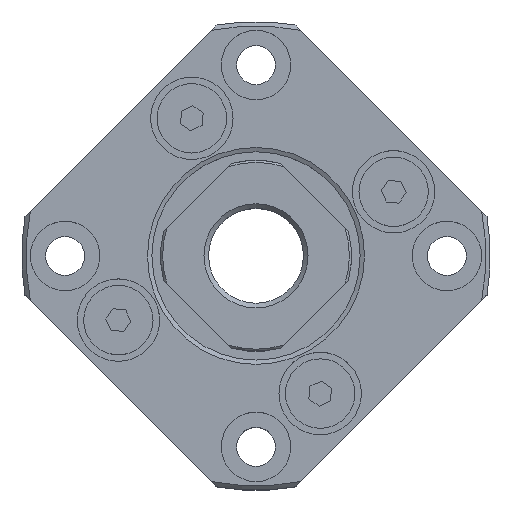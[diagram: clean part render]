
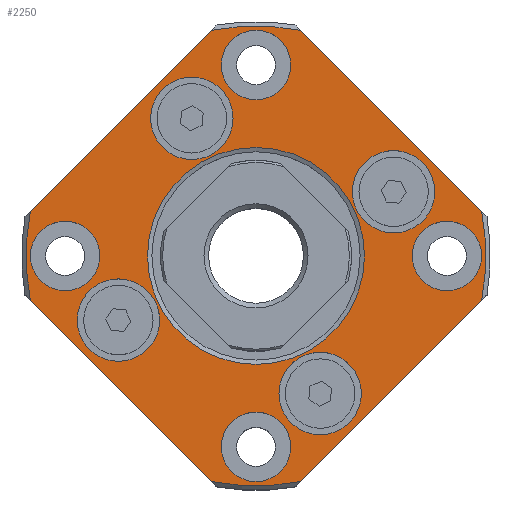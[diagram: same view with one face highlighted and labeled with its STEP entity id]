
A CAD part, top view. The second image highlights one B-rep face of the part: STEP entity #2250.
In plain terms, the highlighted planar face has unit normal (0, 0, 1) as drawn and (-1, 0, 0) by its records, which use the part's own axes.
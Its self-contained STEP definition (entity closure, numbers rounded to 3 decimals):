
#170=LINE('',#3469,#324);
#174=LINE('',#3488,#328);
#178=LINE('',#3507,#332);
#182=LINE('',#3526,#336);
#324=VECTOR('',#2750,1000.);
#328=VECTOR('',#2756,1000.);
#332=VECTOR('',#2762,1000.);
#336=VECTOR('',#2768,1000.);
#506=ORIENTED_EDGE('',*,*,#1110,.T.);
#507=ORIENTED_EDGE('',*,*,#1111,.T.);
#508=ORIENTED_EDGE('',*,*,#1112,.T.);
#509=ORIENTED_EDGE('',*,*,#1113,.T.);
#510=ORIENTED_EDGE('',*,*,#1114,.T.);
#511=ORIENTED_EDGE('',*,*,#1115,.T.);
#512=ORIENTED_EDGE('',*,*,#1116,.T.);
#513=ORIENTED_EDGE('',*,*,#1117,.T.);
#514=ORIENTED_EDGE('',*,*,#1118,.T.);
#515=ORIENTED_EDGE('',*,*,#1107,.F.);
#516=ORIENTED_EDGE('',*,*,#1119,.F.);
#517=ORIENTED_EDGE('',*,*,#1101,.F.);
#518=ORIENTED_EDGE('',*,*,#1120,.F.);
#519=ORIENTED_EDGE('',*,*,#1095,.F.);
#520=ORIENTED_EDGE('',*,*,#1121,.F.);
#521=ORIENTED_EDGE('',*,*,#1089,.F.);
#522=ORIENTED_EDGE('',*,*,#1122,.F.);
#1089=EDGE_CURVE('',#1391,#1392,#170,.T.);
#1095=EDGE_CURVE('',#1397,#1398,#174,.T.);
#1101=EDGE_CURVE('',#1403,#1404,#178,.T.);
#1107=EDGE_CURVE('',#1409,#1410,#182,.T.);
#1110=EDGE_CURVE('',#1412,#1412,#1588,.T.);
#1111=EDGE_CURVE('',#1413,#1413,#1589,.T.);
#1112=EDGE_CURVE('',#1414,#1414,#1590,.T.);
#1113=EDGE_CURVE('',#1415,#1415,#1591,.T.);
#1114=EDGE_CURVE('',#1416,#1416,#1592,.T.);
#1115=EDGE_CURVE('',#1417,#1417,#1593,.T.);
#1116=EDGE_CURVE('',#1418,#1418,#1594,.T.);
#1117=EDGE_CURVE('',#1419,#1419,#1595,.T.);
#1118=EDGE_CURVE('',#1420,#1420,#1596,.T.);
#1119=EDGE_CURVE('',#1404,#1409,#1597,.T.);
#1120=EDGE_CURVE('',#1398,#1403,#1598,.T.);
#1121=EDGE_CURVE('',#1392,#1397,#1599,.T.);
#1122=EDGE_CURVE('',#1410,#1391,#1600,.T.);
#1391=VERTEX_POINT('',#3468);
#1392=VERTEX_POINT('',#3470);
#1397=VERTEX_POINT('',#3487);
#1398=VERTEX_POINT('',#3489);
#1403=VERTEX_POINT('',#3506);
#1404=VERTEX_POINT('',#3508);
#1409=VERTEX_POINT('',#3525);
#1410=VERTEX_POINT('',#3527);
#1412=VERTEX_POINT('',#3536);
#1413=VERTEX_POINT('',#3538);
#1414=VERTEX_POINT('',#3540);
#1415=VERTEX_POINT('',#3542);
#1416=VERTEX_POINT('',#3544);
#1417=VERTEX_POINT('',#3546);
#1418=VERTEX_POINT('',#3548);
#1419=VERTEX_POINT('',#3550);
#1420=VERTEX_POINT('',#3552);
#1588=CIRCLE('',#2445,4.75);
#1589=CIRCLE('',#2446,4.75);
#1590=CIRCLE('',#2447,4.75);
#1591=CIRCLE('',#2448,4.75);
#1592=CIRCLE('',#2449,4.);
#1593=CIRCLE('',#2450,4.);
#1594=CIRCLE('',#2451,4.);
#1595=CIRCLE('',#2452,4.);
#1596=CIRCLE('',#2453,12.5);
#1597=CIRCLE('',#2454,26.5);
#1598=CIRCLE('',#2455,26.5);
#1599=CIRCLE('',#2456,26.5);
#1600=CIRCLE('',#2457,26.5);
#1710=EDGE_LOOP('',(#506));
#1711=EDGE_LOOP('',(#507));
#1712=EDGE_LOOP('',(#508));
#1713=EDGE_LOOP('',(#509));
#1714=EDGE_LOOP('',(#510));
#1715=EDGE_LOOP('',(#511));
#1716=EDGE_LOOP('',(#512));
#1717=EDGE_LOOP('',(#513));
#1718=EDGE_LOOP('',(#514));
#1719=EDGE_LOOP('',(#515,#516,#517,#518,#519,#520,#521,#522));
#1942=FACE_BOUND('',#1710,.T.);
#1943=FACE_BOUND('',#1711,.T.);
#1944=FACE_BOUND('',#1712,.T.);
#1945=FACE_BOUND('',#1713,.T.);
#1946=FACE_BOUND('',#1714,.T.);
#1947=FACE_BOUND('',#1715,.T.);
#1948=FACE_BOUND('',#1716,.T.);
#1949=FACE_BOUND('',#1717,.T.);
#1950=FACE_BOUND('',#1718,.T.);
#1951=FACE_BOUND('',#1719,.T.);
#2169=PLANE('',#2444);
#2250=ADVANCED_FACE('',(#1942,#1943,#1944,#1945,#1946,#1947,#1948,#1949,
#1950,#1951),#2169,.F.);
#2444=AXIS2_PLACEMENT_3D('',#3534,#2770,#2771);
#2445=AXIS2_PLACEMENT_3D('',#3535,#2772,#2773);
#2446=AXIS2_PLACEMENT_3D('',#3537,#2774,#2775);
#2447=AXIS2_PLACEMENT_3D('',#3539,#2776,#2777);
#2448=AXIS2_PLACEMENT_3D('',#3541,#2778,#2779);
#2449=AXIS2_PLACEMENT_3D('',#3543,#2780,#2781);
#2450=AXIS2_PLACEMENT_3D('',#3545,#2782,#2783);
#2451=AXIS2_PLACEMENT_3D('',#3547,#2784,#2785);
#2452=AXIS2_PLACEMENT_3D('',#3549,#2786,#2787);
#2453=AXIS2_PLACEMENT_3D('',#3551,#2788,#2789);
#2454=AXIS2_PLACEMENT_3D('',#3553,#2790,#2791);
#2455=AXIS2_PLACEMENT_3D('',#3554,#2792,#2793);
#2456=AXIS2_PLACEMENT_3D('',#3555,#2794,#2795);
#2457=AXIS2_PLACEMENT_3D('',#3556,#2796,#2797);
#2750=DIRECTION('',(0.,-0.707,-0.707));
#2756=DIRECTION('',(0.,0.707,-0.707));
#2762=DIRECTION('',(0.,0.707,0.707));
#2768=DIRECTION('',(0.,-0.707,0.707));
#2770=DIRECTION('',(1.,0.,0.));
#2771=DIRECTION('',(0.,0.,-1.));
#2772=DIRECTION('',(1.,0.,0.));
#2773=DIRECTION('',(0.,0.,-1.));
#2774=DIRECTION('',(1.,0.,0.));
#2775=DIRECTION('',(0.,0.,-1.));
#2776=DIRECTION('',(1.,0.,0.));
#2777=DIRECTION('',(0.,0.,-1.));
#2778=DIRECTION('',(1.,0.,0.));
#2779=DIRECTION('',(0.,0.,-1.));
#2780=DIRECTION('',(1.,0.,0.));
#2781=DIRECTION('',(0.,0.,-1.));
#2782=DIRECTION('',(1.,0.,0.));
#2783=DIRECTION('',(0.,0.,-1.));
#2784=DIRECTION('',(1.,0.,0.));
#2785=DIRECTION('',(0.,0.,-1.));
#2786=DIRECTION('',(1.,0.,0.));
#2787=DIRECTION('',(0.,0.,-1.));
#2788=DIRECTION('',(1.,0.,0.));
#2789=DIRECTION('',(0.,0.,-1.));
#2790=DIRECTION('',(1.,0.,0.));
#2791=DIRECTION('',(0.,0.,-1.));
#2792=DIRECTION('',(1.,0.,0.));
#2793=DIRECTION('',(0.,0.,-1.));
#2794=DIRECTION('',(1.,0.,0.));
#2795=DIRECTION('',(0.,0.,-1.));
#2796=DIRECTION('',(1.,0.,0.));
#2797=DIRECTION('',(0.,0.,-1.));
#3468=CARTESIAN_POINT('',(-10.,-5.11,26.003));
#3469=CARTESIAN_POINT('',(-10.,0.,31.113));
#3470=CARTESIAN_POINT('',(-10.,-26.003,5.11));
#3487=CARTESIAN_POINT('',(-10.,-26.003,-5.11));
#3488=CARTESIAN_POINT('',(-10.,-31.113,0.));
#3489=CARTESIAN_POINT('',(-10.,-5.11,-26.003));
#3506=CARTESIAN_POINT('',(-10.,5.11,-26.003));
#3507=CARTESIAN_POINT('',(-10.,0.,-31.113));
#3508=CARTESIAN_POINT('',(-10.,26.003,-5.11));
#3525=CARTESIAN_POINT('',(-10.,26.003,5.11));
#3526=CARTESIAN_POINT('',(-10.,31.113,0.));
#3527=CARTESIAN_POINT('',(-10.,5.11,26.003));
#3534=CARTESIAN_POINT('',(-10.,12.,0.));
#3535=CARTESIAN_POINT('',(-10.,-7.396,-15.86));
#3536=CARTESIAN_POINT('',(-10.,-7.396,-20.61));
#3537=CARTESIAN_POINT('',(-10.,7.396,15.86));
#3538=CARTESIAN_POINT('',(-10.,7.396,11.11));
#3539=CARTESIAN_POINT('',(-10.,-15.86,7.396));
#3540=CARTESIAN_POINT('',(-10.,-15.86,2.646));
#3541=CARTESIAN_POINT('',(-10.,15.86,-7.396));
#3542=CARTESIAN_POINT('',(-10.,15.86,-12.146));
#3543=CARTESIAN_POINT('',(-10.,0.,22.));
#3544=CARTESIAN_POINT('',(-10.,0.,18.));
#3545=CARTESIAN_POINT('',(-10.,-22.,0.));
#3546=CARTESIAN_POINT('',(-10.,-22.,-4.));
#3547=CARTESIAN_POINT('',(-10.,0.,-22.));
#3548=CARTESIAN_POINT('',(-10.,0.,-26.));
#3549=CARTESIAN_POINT('',(-10.,22.,0.));
#3550=CARTESIAN_POINT('',(-10.,22.,-4.));
#3551=CARTESIAN_POINT('',(-10.,0.,0.));
#3552=CARTESIAN_POINT('',(-10.,0.,-12.5));
#3553=CARTESIAN_POINT('',(-10.,0.,0.));
#3554=CARTESIAN_POINT('',(-10.,0.,0.));
#3555=CARTESIAN_POINT('',(-10.,0.,0.));
#3556=CARTESIAN_POINT('',(-10.,0.,0.));
